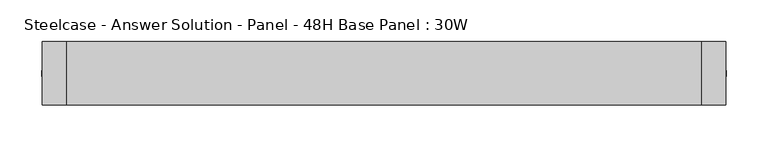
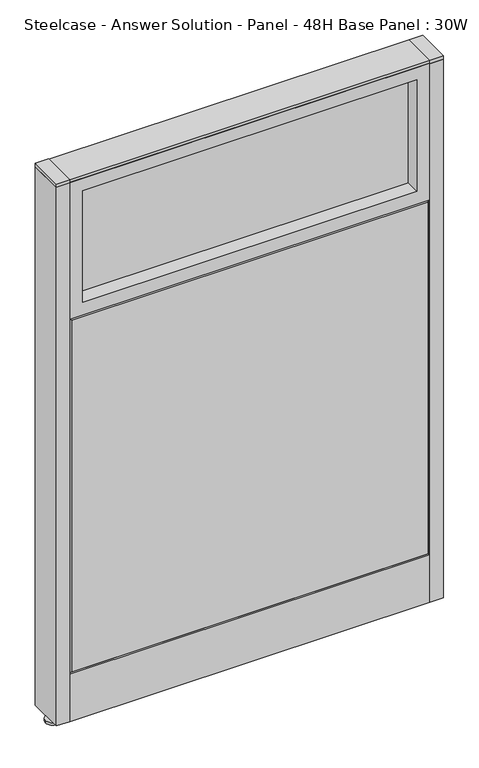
"""IFC4 building model written with IfcOpenShell, lengths in millimetres: furniture geometry, Steelcase - Answer Solution - Panel - 48H Base Panel : 30W."""

from ifc_helpers import new_model, si_unit, point, frame, frame_2d, origin, place, context, project, spatial, polyline, circle_curve, trimmed, segment, composite_curve, outline, extrude, faceted_brep, source, transform, mapped, element, save


def steelcase_answer_solution_panel_48h_base_panel_30w_6344357b(model_context):
    return source(origin(), model_context, "Body", "SolidModel", [
        extrude(outline(composite_curve([segment(trimmed(circle_curve(frame_2d((395.224, 0.0320214)), 5.08), [point((400.304, 0.0320214))], [point((390.144, 0.0320214))], False, "CARTESIAN"), True, "CONTINUOUS"), segment(trimmed(circle_curve(frame_2d((395.224, 0.0320214)), 5.08), [point((390.144, 0.0320214))], [point((400.304, 0.0320214))], False, "CARTESIAN"), True, "CONTINUOUS")], self_intersect=False)), frame((0.0, 0.0, 5.0799671), z_axis=(0.0, 0.0, 1.0), x_axis=(1.0, 0.0, 0.0)), (0.0, 0.0, 1.0), 10.414),
        extrude(outline(composite_curve([segment(trimmed(circle_curve(frame_2d((395.224, 0.0320214)), 15.24), [point((410.464, 0.0320214))], [point((379.984, 0.0320214))], False, "CARTESIAN"), True, "CONTINUOUS"), segment(trimmed(circle_curve(frame_2d((395.224, 0.0320214)), 15.24), [point((379.984, 0.0320214))], [point((410.464, 0.0320214))], False, "CARTESIAN"), True, "CONTINUOUS")], self_intersect=False)), frame((0.0, 0.0, -3.29e-05), z_axis=(0.0, 0.0, 1.0), x_axis=(1.0, 0.0, 0.0)), (0.0, 0.0, 1.0), 5.08),
        extrude(outline(polyline([(409.575, 38.1320408), (409.575, -38.0679592), (381.0, -38.0679592), (381.0, 38.1320408), (409.575, 38.1320408)])), frame((0.0, 0.0, 1218.2348), z_axis=(0.0, 0.0, 1.0), x_axis=(1.0, 0.0, 0.0)), (0.0, 0.0, 1.0), 7.3151671),
        extrude(outline(polyline([(409.575, 38.1320408), (409.575, -38.0679592), (381.0, -38.0679592), (381.0, 38.1320408), (409.575, 38.1320408)])), frame((0.0, 0.0, 15.4939671), z_axis=(0.0, 0.0, 1.0), x_axis=(1.0, 0.0, 0.0)), (0.0, 0.0, 1.0), 1202.7408329),
        extrude(outline(composite_curve([segment(trimmed(circle_curve(frame_2d((-395.224, 0.0320214)), 5.08), [point((-400.304, 0.0320214))], [point((-390.144, 0.0320214))], False, "CARTESIAN"), True, "CONTINUOUS"), segment(trimmed(circle_curve(frame_2d((-395.224, 0.0320214)), 5.08), [point((-390.144, 0.0320214))], [point((-400.304, 0.0320214))], False, "CARTESIAN"), True, "CONTINUOUS")], self_intersect=False)), frame((0.0, 0.0, 5.0799671), z_axis=(0.0, 0.0, 1.0), x_axis=(1.0, 0.0, 0.0)), (0.0, 0.0, 1.0), 10.414),
        extrude(outline(composite_curve([segment(trimmed(circle_curve(frame_2d((-395.224, 0.0320214)), 15.24), [point((-410.464, 0.0320214))], [point((-379.984, 0.0320214))], False, "CARTESIAN"), True, "CONTINUOUS"), segment(trimmed(circle_curve(frame_2d((-395.224, 0.0320214)), 15.24), [point((-379.984, 0.0320214))], [point((-410.464, 0.0320214))], False, "CARTESIAN"), True, "CONTINUOUS")], self_intersect=False)), frame((0.0, 0.0, -3.29e-05), z_axis=(0.0, 0.0, 1.0), x_axis=(1.0, 0.0, 0.0)), (0.0, 0.0, 1.0), 5.08),
        extrude(outline(polyline([(-409.575, 38.1320408), (-381.0, 38.1320408), (-381.0, -38.0679592), (-409.575, -38.0679592), (-409.575, 38.1320408)])), frame((0.0, 0.0, 1218.2348), z_axis=(0.0, 0.0, 1.0), x_axis=(1.0, 0.0, 0.0)), (0.0, 0.0, 1.0), 7.3151671),
        extrude(outline(polyline([(-409.575, 38.1320408), (-381.0, 38.1320408), (-381.0, -38.0679592), (-409.575, -38.0679592), (-409.575, 38.1320408)])), frame((0.0, 0.0, 15.4939671), z_axis=(0.0, 0.0, 1.0), x_axis=(1.0, 0.0, 0.0)), (0.0, 0.0, 1.0), 1202.7408329),
        extrude(outline(polyline([(-353.06, 6.346049), (353.06, 6.346049), (353.06, -6.353951), (-353.06, -6.353951), (-353.06, 6.346049)])), frame((0.0, 0.0, 942.34), z_axis=(0.0, 0.0, 1.0), x_axis=(1.0, 0.0, 0.0)), (0.0, 0.0, 1.0), 248.92),
        extrude(outline(polyline([(1219.2, -381.0), (914.4, -381.0), (914.4, 381.0), (1219.2, 381.0), (1219.2, -381.0)]), holes=[polyline([(1191.26, -353.06), (1191.26, 353.06), (942.34, 353.06), (942.34, -353.06), (1191.26, -353.06)])]), frame((0.0, -38.103951, 0.0), z_axis=(0.0, 1.0, 0.0), x_axis=(0.0, 0.0, 1.0)), (0.0, 0.0, 1.0), 76.2),
        faceted_brep([(-376.174, 38.1635011, 909.574), (376.174, 38.1635011, 909.574), (376.174, 38.1635011, 125.476), (-376.174, 38.1635011, 125.476), (-381.0, 33.3375011, 914.4), (-381.0, 33.3375011, 120.65), (381.0, 33.3375011, 120.65), (381.0, 33.3375011, 914.4)], [[[0, 1, 2, 3]], [[4, 5, 6, 7]], [[4, 7, 1, 0]], [[7, 6, 2, 1]], [[6, 5, 3, 2]], [[5, 4, 0, 3]]]),
        extrude(outline(polyline([(353.06, -6.346049), (-353.06, -6.346049), (-353.06, 6.353951), (353.06, 6.353951), (353.06, -6.346049)])), frame((0.0, 0.0, 942.34), z_axis=(0.0, 0.0, 1.0), x_axis=(1.0, 0.0, 0.0)), (0.0, 0.0, 1.0), 248.92),
        extrude(outline(polyline([(1219.2, 381.0), (1219.2, -381.0), (914.4, -381.0), (914.4, 381.0), (1219.2, 381.0)]), holes=[polyline([(1191.26, 353.06), (942.34, 353.06), (942.34, -353.06), (1191.26, -353.06), (1191.26, 353.06)])]), frame((0.0, -38.096049, 0.0), z_axis=(0.0, 1.0, 0.0), x_axis=(0.0, 0.0, 1.0)), (0.0, 0.0, 1.0), 76.2),
        faceted_brep([(376.174, -38.1635011, 909.574), (-376.174, -38.1635011, 909.574), (-376.174, -38.1635011, 125.476), (376.174, -38.1635011, 125.476), (381.0, -33.3375011, 914.4), (381.0, -33.3375011, 120.65), (-381.0, -33.3375011, 120.65), (-381.0, -33.3375011, 914.4)], [[[0, 1, 2, 3]], [[4, 5, 6, 7]], [[4, 7, 1, 0]], [[7, 6, 2, 1]], [[6, 5, 3, 2]], [[5, 4, 0, 3]]]),
        extrude(outline(polyline([(381.0, 38.1000194), (381.0, -38.1000194), (-381.0, -38.1000194), (-381.0, 38.1000194), (381.0, 38.1000194)])), frame((0.0, 0.0, 1219.2), z_axis=(0.0, 0.0, 1.0), x_axis=(1.0, 0.0, 0.0)), (0.0, 0.0, 1.0), 6.35),
        extrude(outline(polyline([(25.4000011, 119.8575157), (25.4000011, 120.65), (38.1000194, 120.65), (38.1000194, 15.494), (37.3075215, 15.494), (37.3075215, 119.8575157), (25.4000011, 119.8575157)])), frame((-381.0, 0.0, 0.0), z_axis=(1.0, 0.0, 0.0), x_axis=(0.0, 1.0, 0.0)), (0.0, 0.0, 1.0), 762.0),
        extrude(outline(polyline([(-25.4000011, 119.8575157), (-37.3075215, 119.8575157), (-37.3075215, 15.494), (-38.1000194, 15.494), (-38.1000194, 120.65), (-25.4000011, 120.65), (-25.4000011, 119.8575157)])), frame((-381.0, 0.0, 0.0), z_axis=(1.0, 0.0, 0.0), x_axis=(0.0, 1.0, 0.0)), (0.0, 0.0, 1.0), 762.0),
    ])


if __name__ == "__main__":
    model = new_model("IFC4")
    model_context = context("Model", 3, world=origin())
    ifc_project = project(units=[si_unit("LENGTHUNIT", "METRE", prefix="MILLI")], contexts=[model_context])
    site = spatial("IfcSite", under=ifc_project)
    building = spatial("IfcBuilding", under=site)
    placement = place(None, origin())
    steelcase_answer_solution_panel_48h_base_panel_30w_shape = steelcase_answer_solution_panel_48h_base_panel_30w_6344357b(model_context)
    element("IfcFurniture", 1, ObjectType="Steelcase - Answer Solution - Panel - 48H Base Panel : 30W", at=placement, inside=building, context=model_context, shape_type="MappedRepresentation", body=[
        mapped(steelcase_answer_solution_panel_48h_base_panel_30w_shape, transform((0.0, 0.0, 0.0), x_axis=(1.0, 0.0, 0.0), y_axis=(0.0, 1.0, 0.0), z_axis=(0.0, 0.0, 1.0))),
    ])
    save(model, "model.ifc")
